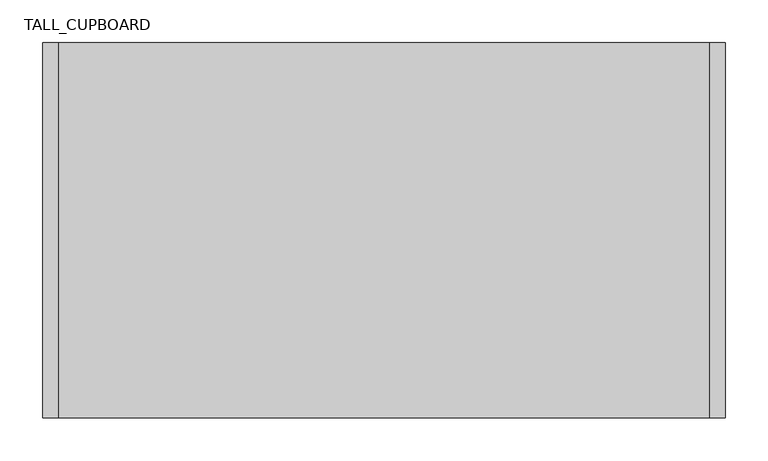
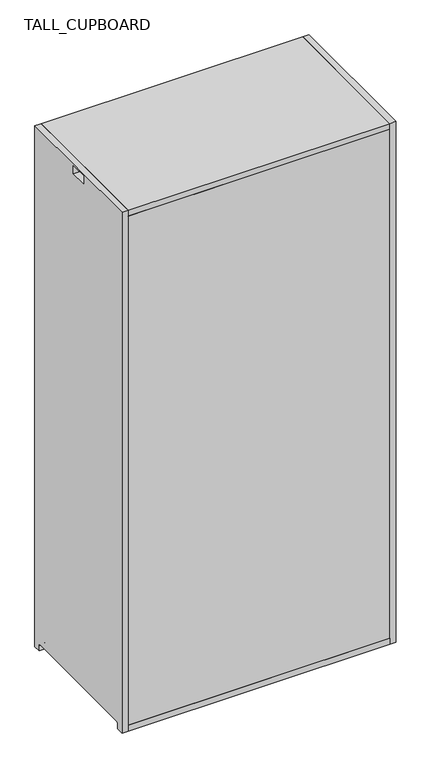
"""IFC4 building model written with IfcOpenShell, lengths in millimetres: furniture geometry, TALL_CUPBOARD : 800mmW_SHELVES & DIVIDER."""

from ifc_helpers import new_model, si_unit, point, frame, frame_2d, origin, place, context, project, spatial, polyline, circle_curve, trimmed, segment, composite_curve, outline, extrude, source, transform, mapped, element, save
from ifc_brep_helpers import plane_surface, revolved_surface, advanced_brep


def tall_cupboard_c137cbd7(model_context):
    return source(origin(), model_context, "Body", "SolidModel", [
        extrude(outline(composite_curve([segment(polyline([(220.0, 1605.0), (220.0, 0.0), (198.0, 0.0), (198.0, 17.0)]), True, "CONTINUOUS"), segment(trimmed(circle_curve(frame_2d((194.0, 17.0)), 4.0), [point((198.0, 17.0))], [point((194.0, 21.0))], True, "CARTESIAN"), True, "CONTINUOUS"), segment(polyline([(194.0, 21.0), (-194.0, 21.0)]), True, "CONTINUOUS"), segment(trimmed(circle_curve(frame_2d((-194.0, 17.0)), 4.0), [point((-194.0, 21.0))], [point((-198.0, 17.0))], True, "CARTESIAN"), True, "CONTINUOUS"), segment(polyline([(-198.0, 17.0), (-198.0, 0.0), (-220.0, 0.0), (-220.0, 1605.0), (220.0, 1605.0)]), True, "CONTINUOUS")], self_intersect=False), holes=[polyline([(26.0, 1600.0), (-26.0, 1600.0), (-26.0, 1575.0), (26.0, 1575.0), (26.0, 1600.0)])]), frame((-400.0, 0.0, 0.0), z_axis=(1.0, 0.0, 0.0), x_axis=(0.0, 1.0, 0.0)), (0.0, 0.0, 1.0), 18.0),
        advanced_brep(
        [(382.0, -220.0, 18.0), (382.0, 220.0, 18.0), (-382.0, 220.0, 18.0), (-382.0, 197.8729833, 18.0), (-376.1019215, 197.8729833, 18.0), (-376.1019215, -197.8729833, 18.0), (-382.0, -197.8729833, 18.0), (-382.0, -220.0, 18.0), (382.0, -220.0, 0.0), (-382.0, -220.0, 0.0), (-382.0, -198.0, 0.0), (-376.1019215, -198.0, 0.0), (-376.1019215, 198.0, 0.0), (-382.0, 198.0, 0.0), (-382.0, 220.0, 0.0), (382.0, 220.0, 0.0), (-382.0, -198.0, 17.0), (-382.0, 198.0, 17.0), (-376.1019215, -198.0, 17.0), (-376.1019215, 198.0, 17.0)],
        [
            (0, 1),
            (1, 2),
            (2, 3),
            (3, 4),
            (4, 5),
            (5, 6),
            (6, 7),
            (7, 0),
            (8, 9),
            (9, 10),
            (10, 11),
            (11, 12),
            (12, 13),
            (13, 14),
            (14, 15),
            (15, 8),
            (7, 9),
            (8, 0),
            (6, 16, circle_curve(frame((-382.0, -194.0, 17.0), z_axis=(1.0, 0.0, 0.0), x_axis=(0.0, -1.0, 0.0)), 4.0)),
            (16, 10),
            (13, 17),
            (17, 3, circle_curve(frame((-382.0, 194.0, 17.0), z_axis=(1.0, 0.0, 0.0), x_axis=(0.0, -1.0, 0.0)), 4.0)),
            (2, 14),
            (1, 15),
            (18, 5, circle_curve(frame((-376.1019215, -194.0, 17.0), z_axis=(-1.0, 0.0, 0.0), x_axis=(0.0, -1.0, 0.0)), 4.0)),
            (4, 19, circle_curve(frame((-376.1019215, 194.0, 17.0), z_axis=(-1.0, 0.0, 0.0), x_axis=(0.0, -1.0, 0.0)), 4.0)),
            (19, 12),
            (11, 18),
            (17, 19),
            (16, 18),
        ],
        [
            plane_surface(frame((-382.0, -220.0, 18.0), z_axis=(0.0, 0.0, 1.0), x_axis=(-1.0, 0.0, 0.0))),
            plane_surface(frame((-382.0, -220.0, 0.0), z_axis=(0.0, 0.0, -1.0), x_axis=(1.0, 0.0, 0.0))),
            plane_surface(frame((382.0, -220.0, 18.0), z_axis=(0.0, -1.0, 0.0), x_axis=(0.0, 0.0, -1.0))),
            plane_surface(frame((-382.0, -220.0, 18.0), z_axis=(-1.0, 0.0, 0.0), x_axis=(0.0, 0.0, -1.0))),
            plane_surface(frame((-382.0, 220.0, 18.0), z_axis=(0.0, 1.0, 0.0), x_axis=(0.0, 0.0, -1.0))),
            plane_surface(frame((382.0, 220.0, 18.0), z_axis=(1.0, 0.0, 0.0), x_axis=(0.0, 0.0, -1.0))),
            plane_surface(frame((-376.1019215, 190.0, 17.0), z_axis=(-1.0, 0.0, 0.0), x_axis=(0.0, 0.0, 1.0))),
            revolved_surface(polyline([(-376.1019215, 190.0, 17.0), (-382.0, 190.0, 17.0)]), (-406.0458228, 194.0, 17.0), (1.0, 0.0, 0.0)),
            plane_surface(frame((-376.1019215, 198.0, 17.0), z_axis=(0.0, -1.0, 0.0), x_axis=(-1.0, 0.0, 0.0))),
            plane_surface(frame((-376.1019215, -198.0, 0.0), z_axis=(0.0, 1.0, 0.0), x_axis=(-1.0, 0.0, 0.0))),
            revolved_surface(polyline([(-376.1019215, -198.0, 17.0), (-382.0, -198.0, 17.0)]), (-406.0458228, -194.0, 17.0), (1.0, 0.0, 0.0)),
        ],
        [
            (0, [[1, 2, 3, 4, 5, 6, 7, 8]]),
            (1, [[9, 10, 11, 12, 13, 14, 15, 16]]),
            (2, [[17, -9, 18, -8]]),
            (3, [[-7, 19, 20, -10, -17]]),
            (3, [[-14, 21, 22, -3, 23]]),
            (4, [[24, -15, -23, -2]]),
            (5, [[-18, -16, -24, -1]]),
            (6, [[25, -5, 26, 27, -12, 28]]),
            (7, [[-4, -22, 29, -26]]),
            (8, [[-29, -21, -13, -27]]),
            (9, [[-11, -20, 30, -28]]),
            (10, [[-30, -19, -6, -25]]),
        ],
    ),
        extrude(outline(composite_curve([segment(polyline([(220.0, 1605.0), (220.0, 0.0), (198.0, 0.0), (198.0, 17.0)]), True, "CONTINUOUS"), segment(trimmed(circle_curve(frame_2d((194.0, 17.0)), 4.0), [point((198.0, 17.0))], [point((194.0, 21.0))], True, "CARTESIAN"), True, "CONTINUOUS"), segment(polyline([(194.0, 21.0), (-194.0, 21.0)]), True, "CONTINUOUS"), segment(trimmed(circle_curve(frame_2d((-194.0, 17.0)), 4.0), [point((-194.0, 21.0))], [point((-198.0, 17.0))], True, "CARTESIAN"), True, "CONTINUOUS"), segment(polyline([(-198.0, 17.0), (-198.0, 0.0), (-220.0, 0.0), (-220.0, 1605.0), (220.0, 1605.0)]), True, "CONTINUOUS")], self_intersect=False), holes=[polyline([(26.0, 1600.0), (-26.0, 1600.0), (-26.0, 1575.0), (26.0, 1575.0), (26.0, 1600.0)])]), frame((382.0, 0.0, 0.0), z_axis=(1.0, 0.0, 0.0), x_axis=(0.0, 1.0, 0.0)), (0.0, 0.0, 1.0), 18.0),
        extrude(outline(polyline([(382.0, -220.0), (-382.0, -220.0), (-382.0, -202.0), (382.0, -202.0), (382.0, -220.0)])), frame((0.0, 0.0, 18.0), z_axis=(0.0, 0.0, 1.0), x_axis=(1.0, 0.0, 0.0)), (0.0, 0.0, 1.0), 1569.0),
        extrude(outline(polyline([(382.0, -202.0), (-382.0, -202.0), (-382.0, 220.0), (382.0, 220.0), (382.0, -202.0)])), frame((0.0, 0.0, 398.5), z_axis=(0.0, 0.0, 1.0), x_axis=(1.0, 0.0, 0.0)), (0.0, 0.0, 1.0), 18.0),
        extrude(outline(polyline([(382.0, -202.0), (-382.0, -202.0), (-382.0, 220.0), (382.0, 220.0), (382.0, -202.0)])), frame((0.0, 0.0, 793.5), z_axis=(0.0, 0.0, 1.0), x_axis=(1.0, 0.0, 0.0)), (0.0, 0.0, 1.0), 18.0),
        extrude(outline(polyline([(382.0, -202.0), (-382.0, -202.0), (-382.0, 220.0), (382.0, 220.0), (382.0, -202.0)])), frame((0.0, 0.0, 1188.5), z_axis=(0.0, 0.0, 1.0), x_axis=(1.0, 0.0, 0.0)), (0.0, 0.0, 1.0), 18.0),
        extrude(outline(polyline([(382.0, -220.0), (-382.0, -220.0), (-382.0, 220.0), (382.0, 220.0), (382.0, -220.0)])), frame((0.0, 0.0, 1587.0), z_axis=(0.0, 0.0, 1.0), x_axis=(1.0, 0.0, 0.0)), (0.0, 0.0, 1.0), 18.0),
        extrude(outline(polyline([(9.0, -202.0), (-9.0, -202.0), (-9.0, 220.0), (9.0, 220.0), (9.0, -202.0)])), frame((0.0, 0.0, 18.0), z_axis=(0.0, 0.0, 1.0), x_axis=(1.0, 0.0, 0.0)), (0.0, 0.0, 1.0), 1569.0),
    ])


if __name__ == "__main__":
    model = new_model("IFC4")
    model_context = context("Model", 3, world=origin())
    ifc_project = project(units=[si_unit("LENGTHUNIT", "METRE", prefix="MILLI")], contexts=[model_context])
    site = spatial("IfcSite", under=ifc_project)
    building = spatial("IfcBuilding", under=site)
    placement = place(None, origin())
    tall_cupboard_shape = tall_cupboard_c137cbd7(model_context)
    element("IfcFurniture", 1, ObjectType="TALL_CUPBOARD : 800mmW_SHELVES & DIVIDER", at=placement, inside=building, context=model_context, shape_type="MappedRepresentation", body=[
        mapped(tall_cupboard_shape, transform((0.0, 0.0, 0.0), x_axis=(1.0, 0.0, 0.0), y_axis=(0.0, 1.0, 0.0), z_axis=(0.0, 0.0, 1.0))),
    ])
    save(model, "model.ifc")
